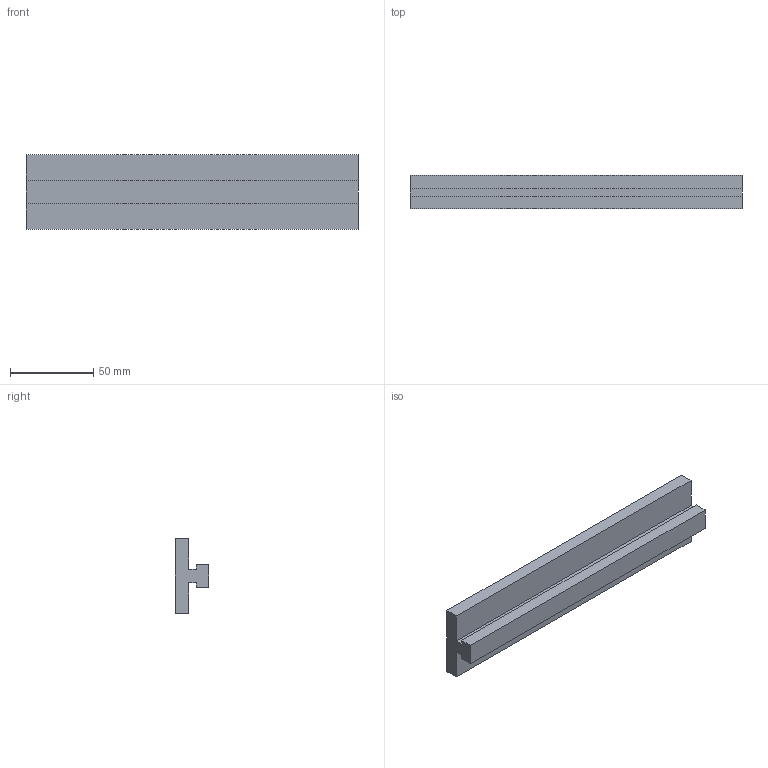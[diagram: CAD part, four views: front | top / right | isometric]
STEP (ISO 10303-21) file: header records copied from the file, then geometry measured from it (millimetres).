
FILE_DESCRIPTION (( 'STEP AP214' ), '1' );
FILE_NAME ('1.6043 Liukukisko 8_45.STEP', '2024-08-13T11:15:28', ( '' ), ( '' ), 'SwSTEP 2.0', 'SolidWorks 2024', '' );
FILE_SCHEMA (( 'AUTOMOTIVE_DESIGN' ));
Length unit declared in the file: millimetre
Products named in the file (1): 1.6043 Liukukisko 8_45
Bounding box: 200 x 20 x 45 mm (x, y, z)
Volume: 99524 mm3; surface area: 29115.2 mm2
Topology: 1 solids, 1 shells, 14 faces, 36 edges, 24 vertices
Faces by surface type: plane 14
Entity records: 597 total; most frequent: CARTESIAN_POINT 75, ORIENTED_EDGE 72, DIRECTION 66, EDGE_CURVE 36, VECTOR 36, LINE 36, VERTEX_POINT 24, UNCERTAINTY_MEASURE_WITH_UNIT 16
